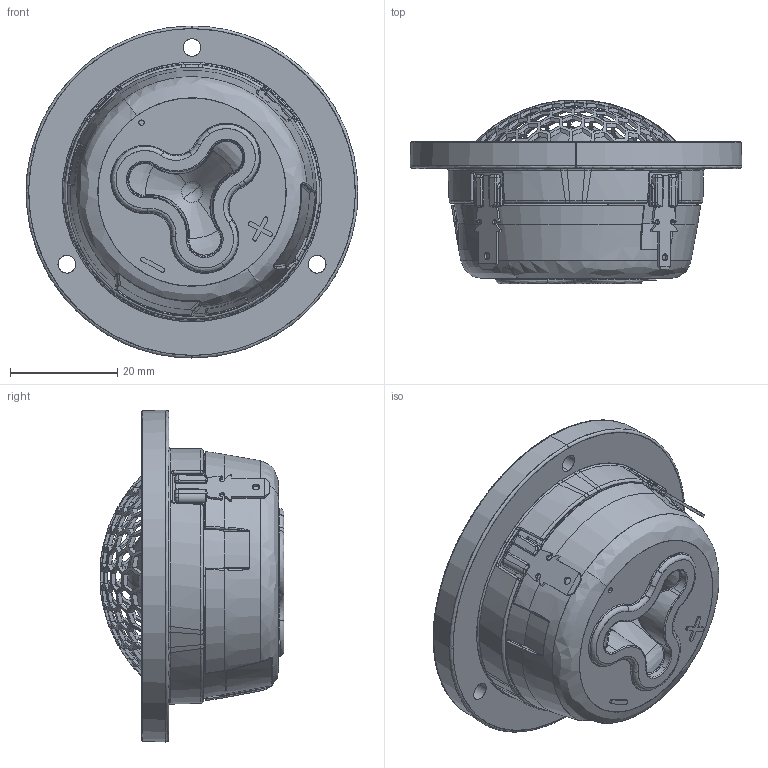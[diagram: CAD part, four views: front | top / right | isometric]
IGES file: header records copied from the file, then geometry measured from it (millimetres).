
Start section: SolidWorks IGES file using analytic representation for surfaces
Global section: file name: W:\TT\D30\D3004-602000\D3004-602006.IGS; native system: SolidWorks 2019; preprocessor: SolidWorks 2019; author: mhn; date: 201215.114842; units: millimetre
Bounding box: 61.91 x 34.28 x 61.91 mm (x, y, z)
Surface area: 15134.6 mm2 (no closed solid volume)
Topology: 0 solids, 0 shells, 1301 faces, 10300 edges, 10283 vertices
Faces by surface type: bspline 1024, revolution 277
